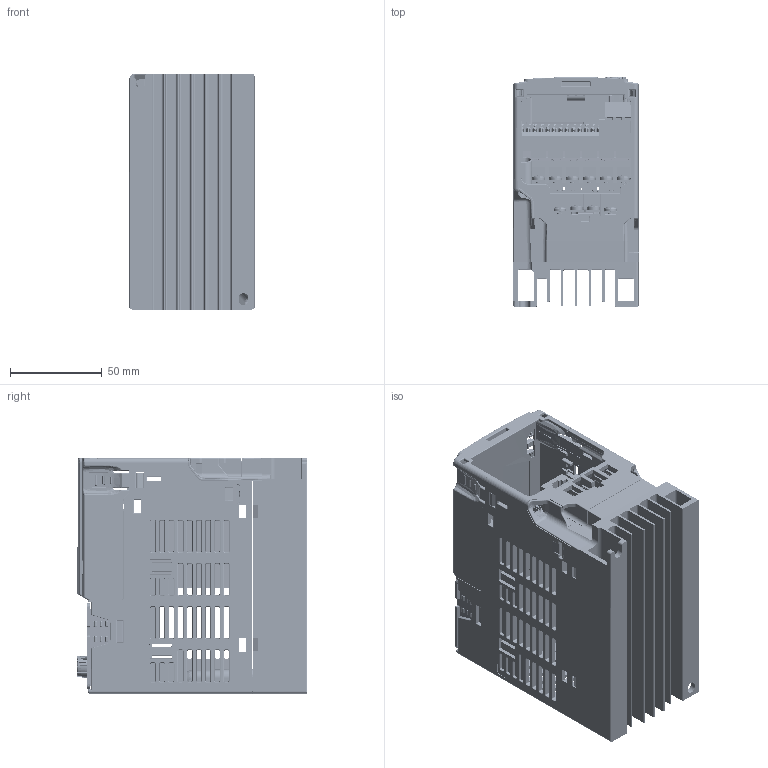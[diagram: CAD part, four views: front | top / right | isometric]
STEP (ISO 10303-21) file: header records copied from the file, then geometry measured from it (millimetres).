
FILE_DESCRIPTION((''),'2;1');
FILE_NAME('ASM0003_ASM_1_ASM_1_ASM_1_ASM','2023-12-28T09:07:39',('EDWARD.LIAO'),(''),'CREO PARAMETRIC BY PTC INC, 2022162','CREO PARAMETRIC BY PTC INC, 2022162','');
FILE_SCHEMA(('AUTOMOTIVE_DESIGN { 1 0 10303 214 1 1 1 1 }'));
Products named in the file (138): VFD-MS300-A3-PD-3D01_5_1_1_1; VFD-MS300-A3-PD-3D01_6_1_1_1; VFD-MS300-A3-PD-3D01_17_1_1_1; VFD-MS300-A3-PD-3D01_18_1_1_1; VFD-MS300-A3-PD-3D01_19_1_1_1; VFD-MS300-A3-PD-3D01_20_1_1_1; VFD-MS300-A3-PD-3D01_21_1_1_1; VFD-MS300-A3-PD-3D01_22_1_1_1; VFD-MS300-A3-PD-3D01_23_1_1_1; VFD-MS300-A3-PD-3D01_24_1_1_1; VFD-MS300-A3-PD-3D01_25_1_1_1; VFD-MS300-A3-PD-3D01_26_1_1_1; VFD-MS300-A3-PD-3D01_27_1_1_1; VFD-MS300-A3-PD-3D01_28_1_1_1; VFD-MS300-A3-PD-3D01_29_1_1_1; VFD-MS300-A3-PD-3D01_30_1_1_1; VFD-MS300-A3-PD-3D01_31_1_1_1; VFD-MS300-A3-PD-3D01_32_1_1_1; VFD-MS300-A3-PD-3D01_33_1_1_1; VFD-MS300-A3-PD-3D01_34_1_1_1; VFD-MS300-A3-PD-3D01_35_1_1_1; VFD-MS300-A3-PD-3D01_36_1_1_1; VFD-MS300-A3-PD-3D01_45_1_1_1; M300-A3-CASE-BODY_MS_1_1; CAD0000912162_1_1; MS-CTR_2_1_1_2_1_1; MS-CTR_3_1_1_2_1_1; MS-CTR_4_1_1_2_1_1; MS-CTR_5_1_1_2_1_1; MS-CTR_6_1_1_2_1_1; MS-CTR_7_1_1_2_1_1; MS-CTR_8_1_1_2_1_1; MS-CTR_9_1_1_2_1_1; MS-CTR_10_1_1_2_1_1; MS-CTR_11_1_1_2_1_1; MS-CTR_12_1_1_2_1_1; MS-CTR_13_1_1_2_1_1; MS-CTR_14_1_1_2_1_1; MS-CTR_15_1_1_2_1_1; MS-CTR_16_1_1_2_1_1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
Assembly tree (137 placements, depth 6):
  ASM0003_ASM_1_ASM_1_ASM_1_ASM
    VFD-MS300-A3-PD-3D01_5_1_1_1
    VFD-MS300-A3-PD-3D01_6_1_1_1
    VFD-MS300-A3-PD-3D01_17_1_1_1
    VFD-MS300-A3-PD-3D01_18_1_1_1
    VFD-MS300-A3-PD-3D01_19_1_1_1
    VFD-MS300-A3-PD-3D01_20_1_1_1
    VFD-MS300-A3-PD-3D01_21_1_1_1
    VFD-MS300-A3-PD-3D01_22_1_1_1
    VFD-MS300-A3-PD-3D01_23_1_1_1
    VFD-MS300-A3-PD-3D01_24_1_1_1
    VFD-MS300-A3-PD-3D01_25_1_1_1
    VFD-MS300-A3-PD-3D01_26_1_1_1
    VFD-MS300-A3-PD-3D01_27_1_1_1
    VFD-MS300-A3-PD-3D01_28_1_1_1
    VFD-MS300-A3-PD-3D01_29_1_1_1
    VFD-MS300-A3-PD-3D01_30_1_1_1
    VFD-MS300-A3-PD-3D01_31_1_1_1
    VFD-MS300-A3-PD-3D01_32_1_1_1
    VFD-MS300-A3-PD-3D01_33_1_1_1
    VFD-MS300-A3-PD-3D01_34_1_1_1
    VFD-MS300-A3-PD-3D01_35_1_1_1
    VFD-MS300-A3-PD-3D01_36_1_1_1
    VFD-MS300-A3-PD-3D01_45_1_1_1
    M300-A3-CASE-BODY_MS_1_1
    CAD0000912162_1_1
    MS-CTR_ASM_1_ASM
      CAD0000911465_ASM_1_1_2_ASM_1_A_ASM
        MS-CTR_2_1_1_2_1_1
        MS-CTR_3_1_1_2_1_1
        MS-CTR_4_1_1_2_1_1
        MS-CTR_5_1_1_2_1_1
        MS-CTR_6_1_1_2_1_1
        MS-CTR_7_1_1_2_1_1
        MS-CTR_8_1_1_2_1_1
        MS-CTR_9_1_1_2_1_1
        MS-CTR_10_1_1_2_1_1
        MS-CTR_11_1_1_2_1_1
        MS-CTR_12_1_1_2_1_1
        MS-CTR_13_1_1_2_1_1
        MS-CTR_14_1_1_2_1_1
        MS-CTR_15_1_1_2_1_1
        MS-CTR_16_1_1_2_1_1
        MS-CTR_18_1_1_2_1_1
        MS-CTR_19_1_1_2_1_1
        MS-CTR_21_1_1_2_1_1
        MS-CTR_22_1_1_2_1_1
        MS-CTR_23_1_1_2_1_1
        MS-CTR_24_1_1_2_1_1
        MS-CTR_26_1_1_2_1_1
        MS-CTR_27_1_1_2_1_1
        MS-CTR_29_1_1_2_1_1
        MS-CTR_30_1_1_2_1_1
        MS-CTR_31_1_1_2_1_1
        MS-CTR_32_1_1_2_1_1
        MS-CTR_34_1_1_2_1_1
        MS-CTR_35_1_1_2_1_1
        MS-CTR_37_1_1_2_1_1
        MS-CTR_38_1_1_2_1_1
        MS-CTR_39_1_1_2_1_1
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Bounding box: 68.4 x 125.1 x 128.2 mm (x, y, z)
Volume: 219220.1 mm3; surface area: 242351.1 mm2
Topology: 132 solids, 134 shells, 14132 faces, 39527 edges, 25578 vertices
Faces by surface type: plane 9257, cylinder 3052, cone 639, torus 513, extrusion 345, bspline 234, sphere 78, revolution 14
Entity records: 622780 total; most frequent: CARTESIAN_POINT 127646, ORIENTED_EDGE 78712, DIRECTION 73937, EDGE_CURVE 39362, PRESENTATION_STYLE_ASSIGNMENT 30891, STYLED_ITEM 29768, CURVE_STYLE 28657, VECTOR 28247
